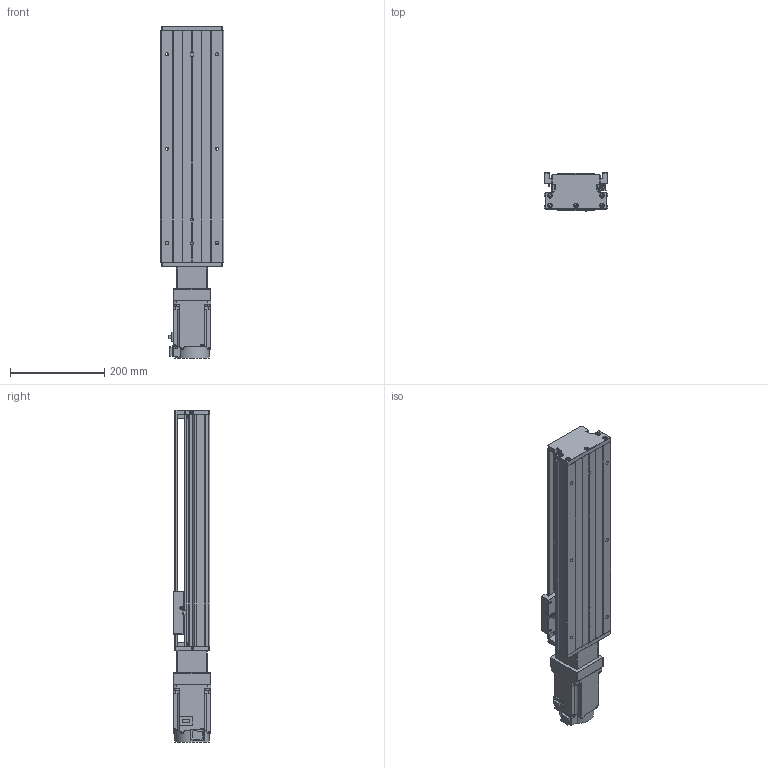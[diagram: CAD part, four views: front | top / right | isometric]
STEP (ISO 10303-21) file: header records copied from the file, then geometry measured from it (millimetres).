
FILE_DESCRIPTION (( 'STEP AP203' ), '1' );
FILE_NAME ('KTH130-350-BC-M75-C4.step', '2023-06-30T04:17:16', ( '微软用户' ), ( '微软中国' ), 'SwSTEP 2.0', 'SolidWorks 2020', '' );
FILE_SCHEMA (( 'CONFIG_CONTROL_DESIGN' ));
Length unit declared in the file: millimetre
Products named in the file (19): GBT 70.2-M3¡Á5_M3¡Á6; GBT 70.3-M3℅8; GTH14-001_350; CTHA60-017; CTHA86-006-1_M75; KTH130-002_KTH130-002; EE_SX911P_R; CTHA86-013; KTH130-004; CTHA60-016; CTHA86-027-1; KTH130-005; GBT 70.1-M3℅5; hg-kn73j_-s100; GB1155-6X6; GBT77-2000 M3×3; KTH130-350-BC-M75-C4; GBT70.1 M5℅16; す晦芛蹟隊 M3℅5
Assembly tree (52 placements, depth 2):
  KTH130-350-BC-M75-C4
    GTH14-001_350
    KTH130-002_KTH130-002
    KTH130-004
    KTH130-005
    GB1155-6X6  x2
    GBT70.1 M5℅16  x10
    GBT 70.2-M3¡Á5_M3¡Á6  x4
    CTHA60-017  x3
    EE_SX911P_R  x3
    CTHA60-016  x2
    GBT 70.1-M3℅5  x6
    GBT77-2000 M3×3  x6
    す晦芛蹟隊 M3℅5  x2
    GBT 70.3-M3℅8  x6
    CTHA86-006-1_M75
    CTHA86-013
    CTHA86-027-1
    hg-kn73j_-s100
Bounding box: 135 x 80.44 x 703.2 mm (x, y, z)
Volume: 3882695.5 mm3; surface area: 577844.1 mm2
Topology: 55 solids, 55 shells, 2240 faces, 5384 edges, 3351 vertices
Faces by surface type: plane 1238, cylinder 606, cone 280, torus 104, sphere 12
Entity records: 39538 total; most frequent: CARTESIAN_POINT 6531, DIRECTION 6491, ORIENTED_EDGE 6052, EDGE_CURVE 3026, AXIS2_PLACEMENT_3D 2247, LINE 1997, VECTOR 1997, VERTEX_POINT 1923
